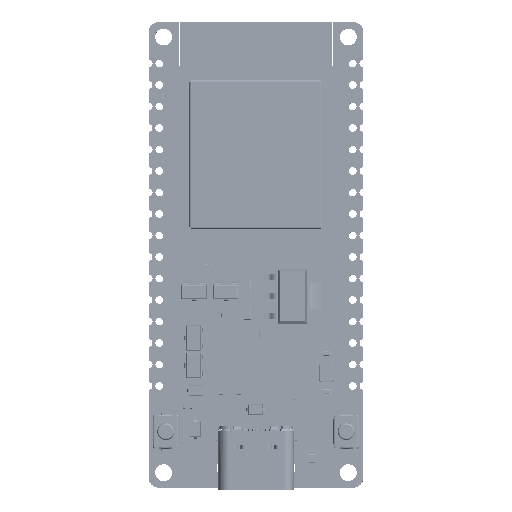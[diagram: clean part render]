
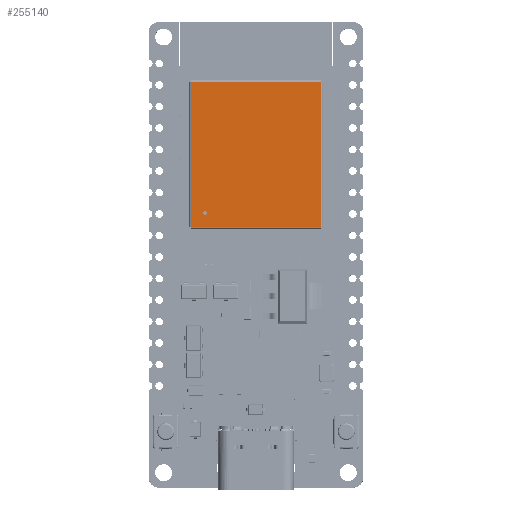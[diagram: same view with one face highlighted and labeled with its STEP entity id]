
A CAD part, top view. The second image highlights one B-rep face of the part: STEP entity #255140.
In plain terms, the highlighted planar face has unit normal (0, 0, 1).
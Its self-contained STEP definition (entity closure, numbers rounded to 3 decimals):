
#254324=DIRECTION('',(1.,0.,0.));
#254325=VECTOR('',#254324,15.3);
#254326=CARTESIAN_POINT('',(1.35,1.3,3.1));
#254327=LINE('',#254326,#254325);
#254332=CARTESIAN_POINT('',(2.97,2.94,3.1));
#254333=DIRECTION('',(0.,0.,-1.));
#254334=DIRECTION('',(-1.,0.,0.));
#254335=AXIS2_PLACEMENT_3D('',#254332,#254333,#254334);
#254337=CARTESIAN_POINT('',(2.97,2.94,3.1));
#254338=DIRECTION('',(0.,0.,-1.));
#254339=DIRECTION('',(1.,0.,0.));
#254340=AXIS2_PLACEMENT_3D('',#254337,#254338,#254339);
#254342=DIRECTION('',(-1.,0.,0.));
#254343=VECTOR('',#254342,15.3);
#254344=CARTESIAN_POINT('',(16.65,18.4,3.1));
#254345=LINE('',#254344,#254343);
#254622=DIRECTION('',(0.,-1.,0.));
#254623=VECTOR('',#254622,17.1);
#254624=CARTESIAN_POINT('',(1.35,18.4,3.1));
#254625=LINE('',#254624,#254623);
#254756=DIRECTION('',(0.,1.,0.));
#254757=VECTOR('',#254756,17.1);
#254758=CARTESIAN_POINT('',(16.65,1.3,3.1));
#254759=LINE('',#254758,#254757);
#254801=CARTESIAN_POINT('',(3.22,2.94,3.1));
#254803=VERTEX_POINT('',#254801);
#254806=CARTESIAN_POINT('',(2.72,2.94,3.1));
#254807=VERTEX_POINT('',#254806);
#254890=CARTESIAN_POINT('',(16.65,18.4,3.1));
#254891=CARTESIAN_POINT('',(1.35,18.4,3.1));
#254892=VERTEX_POINT('',#254890);
#254893=VERTEX_POINT('',#254891);
#254894=CARTESIAN_POINT('',(16.65,1.3,3.1));
#254895=VERTEX_POINT('',#254894);
#254896=CARTESIAN_POINT('',(1.35,1.3,3.1));
#254897=VERTEX_POINT('',#254896);
#255120=CARTESIAN_POINT('',(9.,9.85,3.1));
#255121=DIRECTION('',(0.,0.,1.));
#255122=DIRECTION('',(1.,0.,0.));
#255123=AXIS2_PLACEMENT_3D('',#255120,#255121,#255122);
#255124=PLANE('',#255123);
#255126=ORIENTED_EDGE('',*,*,#255125,.F.);
#255128=ORIENTED_EDGE('',*,*,#255127,.F.);
#255129=ORIENTED_EDGE('',*,*,#255106,.F.);
#255131=ORIENTED_EDGE('',*,*,#255130,.F.);
#255132=EDGE_LOOP('',(#255126,#255128,#255129,#255131));
#255133=FACE_OUTER_BOUND('',#255132,.F.);
#255135=ORIENTED_EDGE('',*,*,#255134,.F.);
#255137=ORIENTED_EDGE('',*,*,#255136,.F.);
#255138=EDGE_LOOP('',(#255135,#255137));
#255139=FACE_BOUND('',#255138,.F.);
#255140=ADVANCED_FACE('',(#255133,#255139),#255124,.T.);
#254336=CIRCLE('',#254335,0.25);
#254341=CIRCLE('',#254340,0.25);
#255106=EDGE_CURVE('',#254897,#254895,#254327,.T.);
#255125=EDGE_CURVE('',#254892,#254893,#254345,.T.);
#255127=EDGE_CURVE('',#254895,#254892,#254759,.T.);
#255130=EDGE_CURVE('',#254893,#254897,#254625,.T.);
#255134=EDGE_CURVE('',#254807,#254803,#254336,.T.);
#255136=EDGE_CURVE('',#254803,#254807,#254341,.T.);
